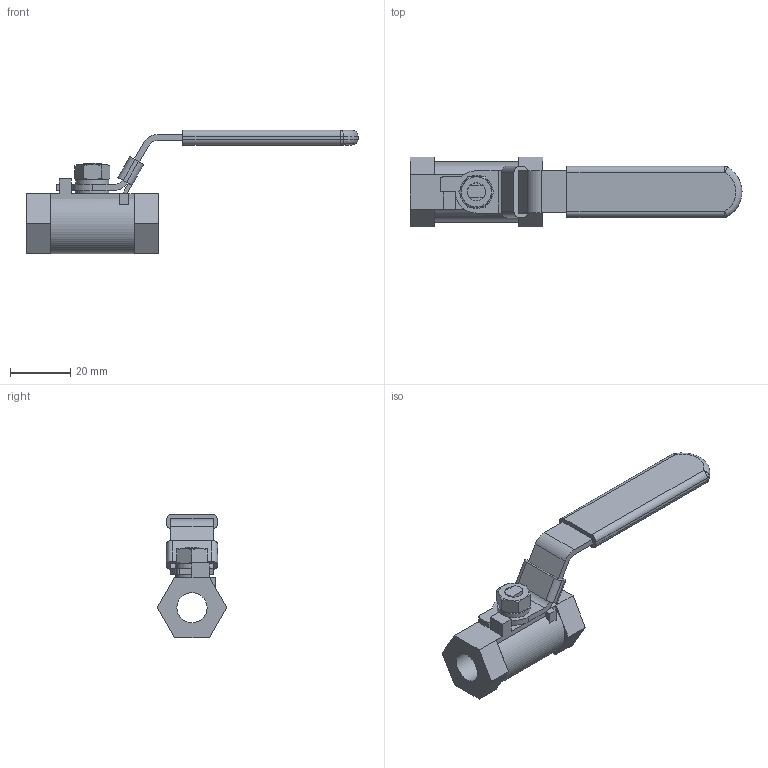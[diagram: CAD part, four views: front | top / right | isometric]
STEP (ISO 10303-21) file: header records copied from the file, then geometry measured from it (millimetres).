
FILE_DESCRIPTION( (''), '2;1');
FILE_NAME ('PC1276.13404.BLV-1S 10A_17358.stp','2025-09-19T13:28:22',(''),(''),'spGate 20.6.3 (****-****-****-****)','','');
FILE_SCHEMA (('AUTOMOTIVE_DESIGN'));
Length unit declared in the file: millimetre
Products named in the file (5): Assembly; CP_''_JIS B 1256 小形-部品等級A 6''_17239; CP_''_JIS B 1181 六角ナット 2種 上 ''_700; BLV-1S 10A 本体; BLV-1S 10A ハンドル
Assembly tree (5 placements, depth 2):
  Assembly
    CP_''_JIS B 1256 小形-部品等級A 6''_17239  x2
    CP_''_JIS B 1181 六角ナット 2種 上 ''_700
    BLV-1S 10A 本体
    BLV-1S 10A ハンドル
Bounding box: 110 x 23.09 x 41 mm (x, y, z)
Volume: 13524.3 mm3; surface area: 12159.4 mm2
Topology: 5 solids, 5 shells, 151 faces, 383 edges, 240 vertices
Faces by surface type: plane 95, cylinder 38, bspline 14, sphere 4
Entity records: 7626 total; most frequent: CARTESIAN_POINT 1055, ORIENTED_EDGE 734, DIRECTION 723, COLOUR_RGB 516, PRESENTATION_STYLE_ASSIGNMENT 516, STYLED_ITEM 516, EDGE_CURVE 367, DRAUGHTING_PRE_DEFINED_CURVE_FONT 367
